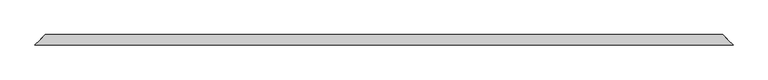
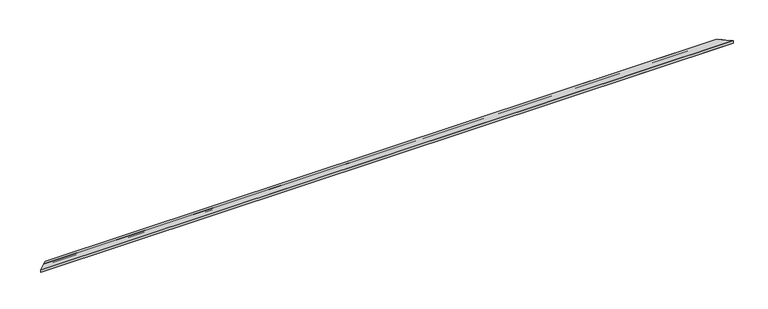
"""IFC4 building model written with IfcOpenShell, lengths in millimetres: proxy geometry, АК5_1 Парапет : АК5_1 Парапет."""

from ifc_helpers import new_model, si_unit, origin, place, context, project, spatial, faceted_brep, source, transform, mapped, element, save


def generic_models_e1d63aaf(model_context):
    return source(origin(), model_context, "Body", "Brep", [
        faceted_brep([(-150.0, -150.0, 62.265966), (-150.0, -150.0, -20.4), (21651.2192609, -150.0, -20.4), (21651.2192609, -150.0, 62.265966), (177.1, 177.1, 33.6484242), (0.0, 0.0, 49.1426665), (21501.2192609, 0.0, 49.1426665), (21324.1192609, 177.1, 33.6484242), (177.1, 177.1, -51.4916897), (21324.1192609, 177.1, -51.4916897), (162.9578644, 162.9578644, -37.3495541), (21338.2613965, 162.9578644, -37.3495541), (162.9578644, 162.9578644, -77.3495541), (21338.2613965, 162.9578644, -77.3495541), (160.0, 160.0, -77.3495541), (21341.2192609, 160.0, -77.3495541), (160.0, 160.0, -57.3495541), (21341.2192609, 160.0, -57.3495541), (161.0, 161.0, -57.3495541), (21340.2192609, 161.0, -57.3495541), (161.0, 161.0, -76.3495541), (21340.2192609, 161.0, -76.3495541), (161.9578644, 161.9578644, -76.3495541), (21339.2613965, 161.9578644, -76.3495541), (161.9578644, 161.9578644, -34.9353406), (21339.2613965, 161.9578644, -34.9353406), (176.1, 176.1, -49.0774762), (21325.1192609, 176.1, -49.0774762), (176.1, 176.1, 32.732093), (21325.1192609, 176.1, 32.732093), (0.0, 0.0, 48.1388467), (21501.2192609, 0.0, 48.1388467), (21650.2192609, -149.0, 61.1746575), (-149.0, -149.0, 61.1746575), (-149.0, -149.0, -17.9857864), (21650.2192609, -149.0, -17.9857864), (-133.0294373, -133.0294373, -2.0152237), (21634.2486982, -133.0294373, -2.0152237), (-132.3223305, -132.3223305, -2.7223305), (21633.5415914, -132.3223305, -2.7223305)], [[[0, 1, 2, 3]], [[4, 5, 0, 3, 6, 7]], [[8, 4, 7, 9]], [[10, 8, 9, 11]], [[12, 10, 11, 13]], [[14, 12, 13, 15]], [[16, 14, 15, 17]], [[18, 16, 17, 19]], [[20, 18, 19, 21]], [[22, 20, 21, 23]], [[24, 22, 23, 25]], [[26, 24, 25, 27]], [[28, 26, 27, 29]], [[30, 28, 29, 31, 32, 33]], [[34, 33, 32, 35]], [[36, 34, 35, 37]], [[38, 36, 37, 39]], [[1, 38, 39, 2]], [[30, 5, 4, 8, 10, 12, 14, 16, 18, 20, 22, 24, 26, 28]], [[5, 30, 33, 34, 36, 38, 1, 0]], [[6, 31, 29, 27, 25, 23, 21, 19, 17, 15, 13, 11, 9, 7]], [[31, 6, 3, 2, 39, 37, 35, 32]]]),
        faceted_brep([(-148.0, -148.0, -12.5), (-146.0, -146.0, -12.5), (21647.2192609, -146.0, -12.5), (21649.2192609, -148.0, -12.5), (-148.0, -148.0, 60.083349), (21649.2192609, -148.0, 60.083349), (1.5433638, 1.5433638, 47.0), (0.0, 0.0, 47.1350268), (21501.2192609, 0.0, 47.1350268), (21499.6758971, 1.5433638, 47.0), (1.5433638, 1.5433638, 4.0), (21499.6758971, 1.5433638, 4.0), (67.5433638, 67.5433638, 4.0), (21433.6758971, 67.5433638, 4.0), (67.5433638, 67.5433638, 41.2257482), (21433.6758971, 67.5433638, 41.2257482), (114.5464367, 114.5464367, 37.1135122), (21386.6728242, 114.5464367, 37.1135122), (114.3721252, 114.3721252, 35.1211228), (21386.8471357, 114.3721252, 35.1211228), (69.5433638, 69.5433638, 39.0431312), (21431.6758971, 69.5433638, 39.0431312), (69.5433638, 69.5433638, 2.0), (21431.6758971, 69.5433638, 2.0), (0.0, 0.0, 2.0), (21501.2192609, 0.0, 2.0), (21501.6758971, -0.4566362, 2.0), (-0.4566362, -0.4566362, 2.0), (-0.4566362, -0.4566362, 45.1673377), (21501.6758971, -0.4566362, 45.1673377), (-146.0, -146.0, 57.900732), (21647.2192609, -146.0, 57.900732)], [[[0, 1, 2, 3]], [[4, 0, 3, 5]], [[6, 7, 4, 5, 8, 9]], [[10, 6, 9, 11]], [[12, 10, 11, 13]], [[14, 12, 13, 15]], [[16, 14, 15, 17]], [[18, 16, 17, 19]], [[20, 18, 19, 21]], [[22, 20, 21, 23]], [[24, 22, 23, 25, 26, 27]], [[28, 27, 26, 29]], [[30, 28, 29, 31]], [[1, 30, 31, 2]], [[24, 7, 6, 10, 12, 14, 16, 18, 20, 22]], [[7, 24, 27, 28, 30, 1, 0, 4]], [[8, 25, 23, 21, 19, 17, 15, 13, 11, 9]], [[25, 8, 5, 3, 2, 31, 29, 26]]]),
    ])


if __name__ == "__main__":
    model = new_model("IFC4")
    model_context = context("Model", 3, world=origin())
    ifc_project = project(units=[si_unit("LENGTHUNIT", "METRE", prefix="MILLI")], contexts=[model_context])
    site = spatial("IfcSite", under=ifc_project)
    building = spatial("IfcBuilding", under=site)
    placement = place(None, origin())
    generic_models_shape = generic_models_e1d63aaf(model_context)
    element("IfcBuildingElementProxy", 1, Name="АК5_1 Парапет : АК5_1 Парапет", ObjectType="АК5_1 Парапет : АК5_1 Парапет", at=placement, inside=building, context=model_context, shape_type="MappedRepresentation", body=[
        mapped(generic_models_shape, transform((0.0, 0.0, 0.0), x_axis=(1.0, 0.0, 0.0), y_axis=(0.0, 1.0, 0.0), z_axis=(0.0, 0.0, 1.0))),
    ])
    save(model, "model.ifc")
